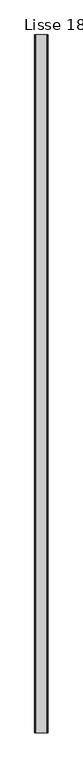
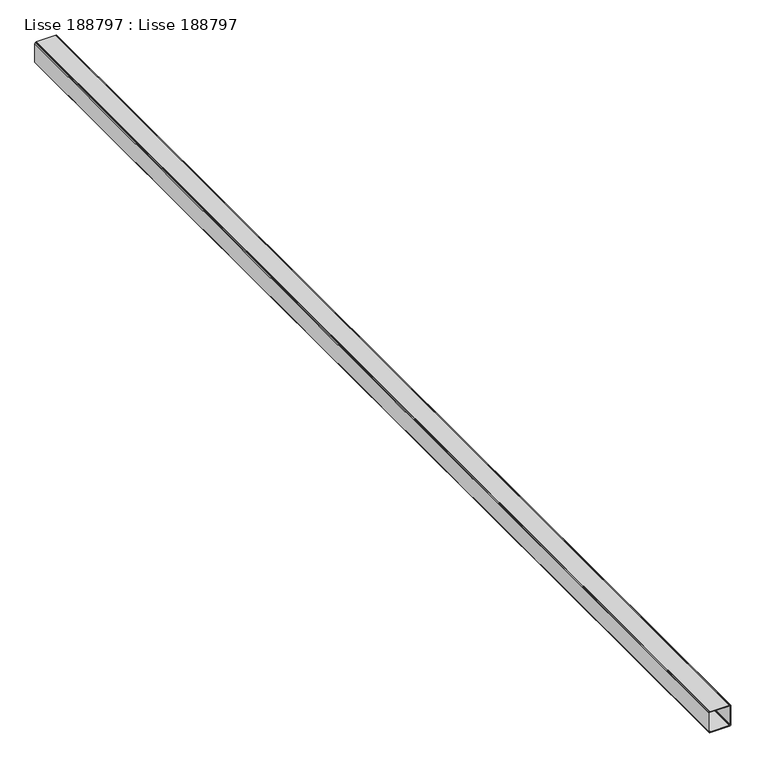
"""IFC4 building model written with IfcOpenShell, lengths in millimetres: beam geometry, Lisse 188797 : Lisse 188797."""

from ifc_helpers import new_model, si_unit, frame, origin, place, context, project, spatial, polyline, outline, extrude, source, transform, mapped, element, save


def lisse_188797_lisse_188797_8d971648(model_context):
    return source(origin(), model_context, "Body", "SweptSolid", [
        extrude(outline(polyline([(3300.0, -86.0000001), (3300.0, -174.0000001), (3299.1961524, -177.0000001), (3297.0, -179.1961526), (3294.0, -180.0000001), (3206.0, -180.0000001), (3203.0, -179.1961526), (3200.8038476, -177.0000001), (3200.0, -174.0000001), (3200.0, -86.0000001), (3200.8038476, -83.0000001), (3203.0, -80.8038477), (3206.0, -80.0000001), (3294.0, -80.0000001), (3297.0, -80.8038477), (3299.1961524, -83.0000001), (3300.0, -86.0000001)]), holes=[polyline([(3204.0, -88.0000001), (3204.0, -172.0000001), (3204.5358984, -174.0000001), (3206.0, -175.4641017), (3208.0, -176.0000001), (3292.0, -176.0000001), (3294.0, -175.4641017), (3295.4641016, -174.0000001), (3296.0, -172.0000001), (3296.0, -88.0000001), (3295.4641016, -86.0000001), (3294.0, -84.5358985), (3292.0, -84.0000001), (3208.0, -84.0000001), (3206.0, -84.5358985), (3204.5358984, -86.0000001), (3204.0, -88.0000001)])]), frame((0.0, -39730.0, 0.0), z_axis=(0.0, 1.0, 0.0), x_axis=(0.0, 0.0, 1.0)), (0.0, 0.0, 1.0), 5245.0),
    ])


if __name__ == "__main__":
    model = new_model("IFC4")
    model_context = context("Model", 3, world=origin())
    ifc_project = project(units=[si_unit("LENGTHUNIT", "METRE", prefix="MILLI")], contexts=[model_context])
    site = spatial("IfcSite", under=ifc_project)
    building = spatial("IfcBuilding", under=site)
    placement = place(None, origin())
    lisse_188797_lisse_188797_shape = lisse_188797_lisse_188797_8d971648(model_context)
    element("IfcBeam", 1, ObjectType="Lisse 188797 : Lisse 188797", at=placement, inside=building, context=model_context, shape_type="MappedRepresentation", body=[
        mapped(lisse_188797_lisse_188797_shape, transform((0.0, 0.0, 0.0), x_axis=(1.0, 0.0, 0.0), y_axis=(0.0, 1.0, 0.0), z_axis=(0.0, 0.0, 1.0))),
    ])
    save(model, "model.ifc")
